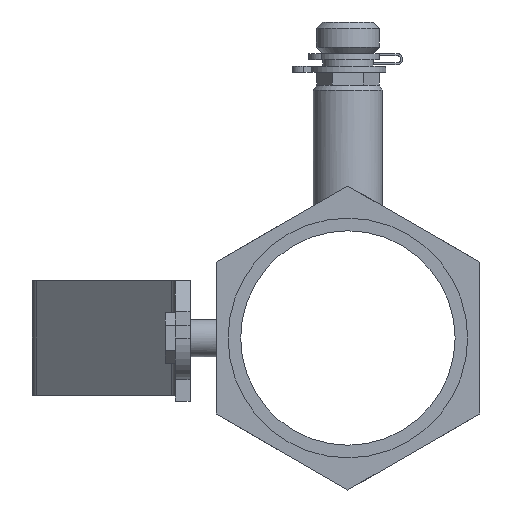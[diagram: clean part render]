
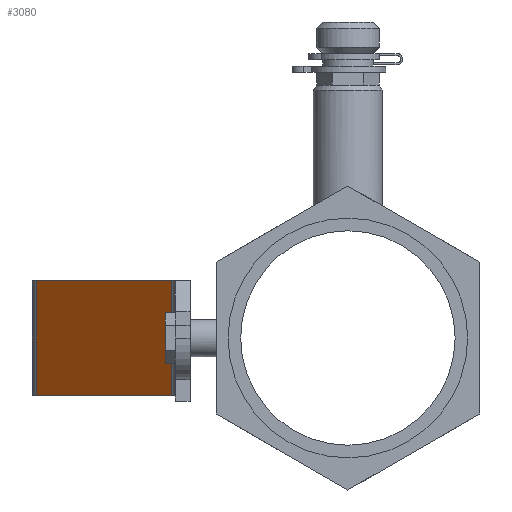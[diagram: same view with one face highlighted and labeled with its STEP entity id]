
A CAD part, left-side view. The second image highlights one B-rep face of the part: STEP entity #3080.
In plain terms, the highlighted planar face has unit normal (-0.707, 0.707, 0).
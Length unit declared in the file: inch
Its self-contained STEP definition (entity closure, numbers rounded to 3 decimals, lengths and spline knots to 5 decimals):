
#94=PLANE('',#3292);
#220=FACE_OUTER_BOUND('',#387,.T.);
#387=EDGE_LOOP('',(#2116,#2117,#2118,#2119));
#738=LINE('',#4634,#1042);
#741=LINE('',#4642,#1045);
#743=LINE('',#4648,#1047);
#744=LINE('',#4649,#1048);
#1042=VECTOR('',#3696,0.3937);
#1045=VECTOR('',#3703,0.3937);
#1047=VECTOR('',#3709,0.3937);
#1048=VECTOR('',#3710,0.3937);
#1357=VERTEX_POINT('',#4631);
#1358=VERTEX_POINT('',#4633);
#1361=VERTEX_POINT('',#4641);
#1363=VERTEX_POINT('',#4647);
#1648=EDGE_CURVE('',#1357,#1358,#738,.T.);
#1652=EDGE_CURVE('',#1358,#1361,#741,.T.);
#1655=EDGE_CURVE('',#1363,#1357,#743,.T.);
#1656=EDGE_CURVE('',#1361,#1363,#744,.T.);
#2116=ORIENTED_EDGE('',*,*,#1652,.F.);
#2117=ORIENTED_EDGE('',*,*,#1648,.F.);
#2118=ORIENTED_EDGE('',*,*,#1655,.F.);
#2119=ORIENTED_EDGE('',*,*,#1656,.F.);
#3080=ADVANCED_FACE('',(#220),#94,.T.);
#3292=AXIS2_PLACEMENT_3D('',#4646,#3707,#3708);
#3696=DIRECTION('',(-0.707,-0.707,0.));
#3703=DIRECTION('',(0.,0.,-1.));
#3707=DIRECTION('center_axis',(-0.707,0.707,0.));
#3708=DIRECTION('ref_axis',(-0.707,-0.707,0.));
#3709=DIRECTION('',(0.,0.,1.));
#3710=DIRECTION('',(0.707,0.707,0.));
#4631=CARTESIAN_POINT('',(2.23271,2.47071,0.455));
#4633=CARTESIAN_POINT('',(1.15929,1.39729,0.455));
#4634=CARTESIAN_POINT('',(2.23271,2.47071,0.455));
#4641=CARTESIAN_POINT('',(1.15929,1.39729,-0.455));
#4642=CARTESIAN_POINT('',(1.15929,1.39729,0.01382));
#4646=CARTESIAN_POINT('Origin',(2.23271,2.47071,0.));
#4647=CARTESIAN_POINT('',(2.23271,2.47071,-0.455));
#4648=CARTESIAN_POINT('',(2.23271,2.47071,0.));
#4649=CARTESIAN_POINT('',(2.23271,2.47071,-0.455));
